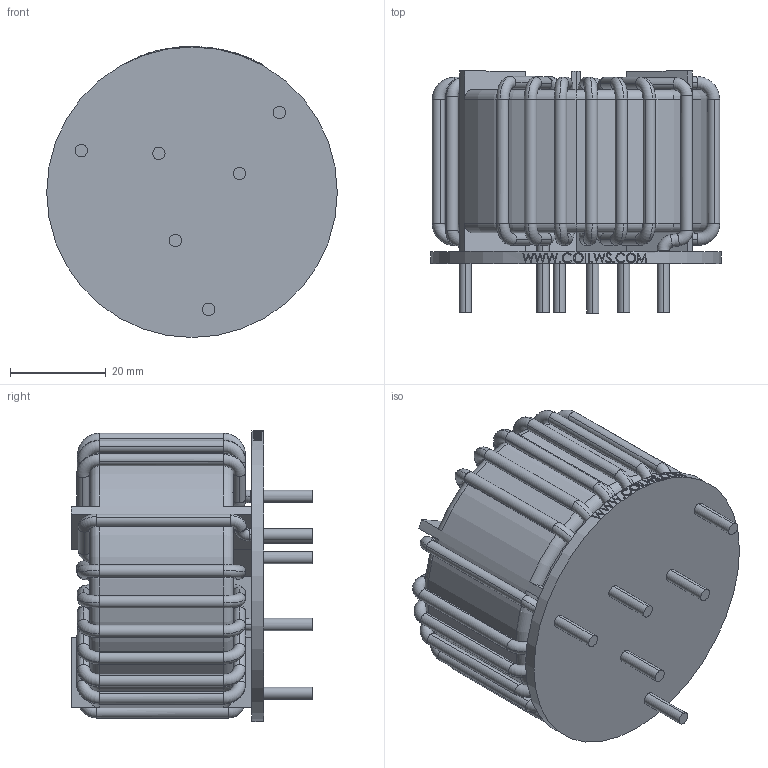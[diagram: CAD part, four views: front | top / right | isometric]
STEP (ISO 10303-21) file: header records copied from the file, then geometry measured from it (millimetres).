
FILE_DESCRIPTION (( 'STEP AP203' ), '1' );
FILE_NAME ('TPC-302U-B40A-SW.STEP', '2021-01-27T14:10:50', ( 'Windows User' ), ( '' ), 'SwSTEP 2.0', 'SolidWorks 2015', '' );
FILE_SCHEMA (( 'CONFIG_CONTROL_DESIGN' ));
Length unit declared in the file: inch
Products named in the file (5): TPC-302U-B40A-SW; TPC-302U-B40A-COIL-SW; TPC-302U-B40A-FRAME-SW; TPC-302U-B40A-CORE-SW; TPC-302U-B40A-SPACER-SW
Assembly tree (4 placements, depth 2):
  TPC-302U-B40A-SW
    TPC-302U-B40A-CORE-SW
    TPC-302U-B40A-SPACER-SW
    TPC-302U-B40A-FRAME-SW
    TPC-302U-B40A-COIL-SW
Bounding box: 60.8 x 50.58 x 60.9 mm (x, y, z)
Volume: 61108.3 mm3; surface area: 36986.8 mm2
Topology: 12 solids, 12 shells, 637 faces, 1803 edges, 1202 vertices
Faces by surface type: cylinder 251, torus 196, bspline 103, plane 87
Entity records: 28788 total; most frequent: CARTESIAN_POINT 11661, DIRECTION 3606, ORIENTED_EDGE 3606, EDGE_CURVE 1803, AXIS2_PLACEMENT_3D 1640, VERTEX_POINT 1202, CIRCLE 1099, EDGE_LOOP 663
